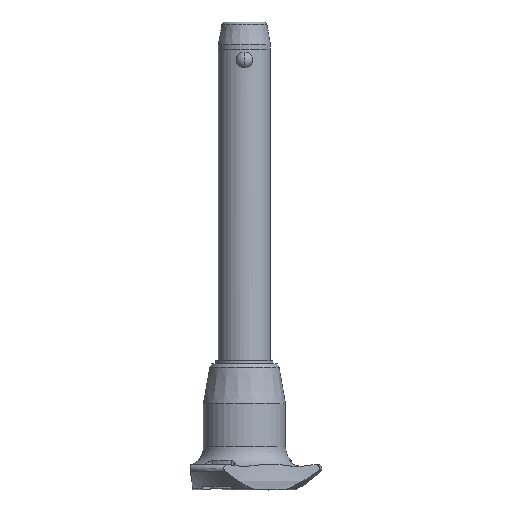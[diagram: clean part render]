
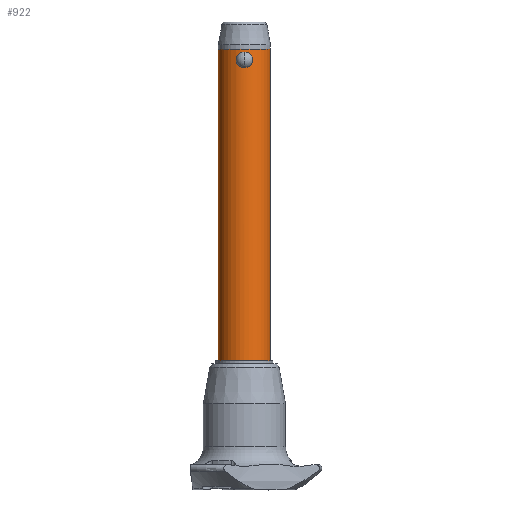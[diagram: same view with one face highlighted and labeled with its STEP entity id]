
A CAD part, front view. The second image highlights one B-rep face of the part: STEP entity #922.
In plain terms, the highlighted cylindrical face has radius 8 mm (diameter 16 mm), a partial arc.
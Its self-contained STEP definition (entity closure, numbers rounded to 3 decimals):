
#37 = CARTESIAN_POINT ( 'NONE',  ( -8., 0., 5.6 ) ) ;
#38 = VERTEX_POINT ( 'NONE', #2809 ) ;
#63 = DIRECTION ( 'NONE',  ( 0., 0., 1. ) ) ;
#154 = CARTESIAN_POINT ( 'NONE',  ( -2.547, -7.584, 2.229 ) ) ;
#170 = EDGE_CURVE ( 'NONE', #38, #1881, #373, .T. ) ;
#180 = CARTESIAN_POINT ( 'NONE',  ( -2.546, -7.584, 2.553 ) ) ;
#205 = CARTESIAN_POINT ( 'NONE',  ( 1.529, -7.854, 0.463 ) ) ;
#219 = CARTESIAN_POINT ( 'NONE',  ( 2.275, -7.67, 1.291 ) ) ;
#260 = EDGE_CURVE ( 'NONE', #2064, #684, #381, .T. ) ;
#287 = CARTESIAN_POINT ( 'NONE',  ( 0., 0., -90. ) ) ;
#331 = VECTOR ( 'NONE', #829, 1000. ) ;
#373 = LINE ( 'NONE', #1288, #331 ) ;
#381 = B_SPLINE_CURVE_WITH_KNOTS ( 'NONE', 3,
 ( #2173, #2449, #841, #2231, #2640, #1316, #2215, #2655, #1107, #1765, #2007, #882, #620, #648, #1301, #1495, #180, #154, #634, #1054, #1950, #2624, #604, #1508, #788, #434, #1685, #635, #2899, #550 ),
 .UNSPECIFIED., .F., .F.,
 ( 4, 2, 2, 2, 2, 2, 2, 2, 2, 2, 2, 2, 2, 2, 4 ),
 ( 0., 0., 0.001, 0.001, 0.002, 0.002, 0.003, 0.003, 0.004, 0.004, 0.005, 0.006, 0.006, 0.007, 0.008 ),
 .UNSPECIFIED. ) ;
#402 = CARTESIAN_POINT ( 'NONE',  ( 8., 0., -90. ) ) ;
#425 = AXIS2_PLACEMENT_3D ( 'NONE', #287, #63, #520 ) ;
#434 = CARTESIAN_POINT ( 'NONE',  ( -1.254, -7.902, 0.297 ) ) ;
#440 = CARTESIAN_POINT ( 'NONE',  ( 2.016, -7.746, 3.891 ) ) ;
#448 = ORIENTED_EDGE ( 'NONE', *, *, #2675, .F. ) ;
#452 = CARTESIAN_POINT ( 'NONE',  ( 0.804, -7.961, 4.661 ) ) ;
#520 = DIRECTION ( 'NONE',  ( 1., 0., 0. ) ) ;
#550 = CARTESIAN_POINT ( 'NONE',  ( 0., -8., 0. ) ) ;
#604 = CARTESIAN_POINT ( 'NONE',  ( -2.016, -7.746, 0.883 ) ) ;
#620 = CARTESIAN_POINT ( 'NONE',  ( -2.276, -7.67, 3.482 ) ) ;
#632 = DIRECTION ( 'NONE',  ( 0., 0., 1. ) ) ;
#634 = CARTESIAN_POINT ( 'NONE',  ( -2.529, -7.59, 2.064 ) ) ;
#635 = CARTESIAN_POINT ( 'NONE',  ( -0.652, -7.979, 0.058 ) ) ;
#641 = DIRECTION ( 'NONE',  ( 0., 0., -1. ) ) ;
#648 = CARTESIAN_POINT ( 'NONE',  ( -2.408, -7.629, 3.189 ) ) ;
#673 = CARTESIAN_POINT ( 'NONE',  ( 2.461, -7.612, 3.027 ) ) ;
#684 = VERTEX_POINT ( 'NONE', #2044 ) ;
#765 = CARTESIAN_POINT ( 'NONE',  ( 8., 0., -90. ) ) ;
#788 = CARTESIAN_POINT ( 'NONE',  ( -1.53, -7.854, 0.464 ) ) ;
#793 = ORIENTED_EDGE ( 'NONE', *, *, #2115, .F. ) ;
#807 = EDGE_LOOP ( 'NONE', ( #2237, #793 ) ) ;
#829 = DIRECTION ( 'NONE',  ( 0., 0., 1. ) ) ;
#836 = CARTESIAN_POINT ( 'NONE',  ( 2.41, -7.629, 3.184 ) ) ;
#841 = CARTESIAN_POINT ( 'NONE',  ( -0.326, -7.995, 4.761 ) ) ;
#864 = CARTESIAN_POINT ( 'NONE',  ( 0.645, -7.976, 4.704 ) ) ;
#877 = CARTESIAN_POINT ( 'NONE',  ( 1.108, -7.924, 4.548 ) ) ;
#882 = CARTESIAN_POINT ( 'NONE',  ( -2.193, -7.694, 3.623 ) ) ;
#893 = CARTESIAN_POINT ( 'NONE',  ( 2.004, -7.746, 0.894 ) ) ;
#922 = ADVANCED_FACE ( 'NONE', ( #1848, #2798 ), #1894, .T. ) ;
#1031 = EDGE_LOOP ( 'NONE', ( #2328, #448, #1311, #1423 ) ) ;
#1054 = CARTESIAN_POINT ( 'NONE',  ( -2.461, -7.612, 1.746 ) ) ;
#1075 = CARTESIAN_POINT ( 'NONE',  ( 2.211, -7.69, 3.626 ) ) ;
#1102 = CARTESIAN_POINT ( 'NONE',  ( 2.194, -7.694, 1.153 ) ) ;
#1107 = CARTESIAN_POINT ( 'NONE',  ( -1.658, -7.827, 4.216 ) ) ;
#1115 = CARTESIAN_POINT ( 'NONE',  ( 0.324, -8., 0. ) ) ;
#1122 = VERTEX_POINT ( 'NONE', #2901 ) ;
#1183 = CIRCLE ( 'NONE', #1940, 8. ) ;
#1288 = CARTESIAN_POINT ( 'NONE',  ( -8., 0., -90. ) ) ;
#1301 = CARTESIAN_POINT ( 'NONE',  ( -2.459, -7.613, 3.036 ) ) ;
#1310 = CARTESIAN_POINT ( 'NONE',  ( 1.252, -7.903, 0.296 ) ) ;
#1311 = ORIENTED_EDGE ( 'NONE', *, *, #1643, .T. ) ;
#1316 = CARTESIAN_POINT ( 'NONE',  ( -1.107, -7.924, 4.548 ) ) ;
#1336 = CARTESIAN_POINT ( 'NONE',  ( 0.326, -7.995, 4.761 ) ) ;
#1399 = B_SPLINE_CURVE_WITH_KNOTS ( 'NONE', 3,
 ( #2863, #1115, #2876, #2014, #1310, #205, #2001, #1544, #893, #1102, #219, #2919, #1558, #2236, #2693, #1572, #1774, #673, #836, #1075, #440, #2207, #2471, #2677, #877, #452, #864, #1336, #1971, #1730 ),
 .UNSPECIFIED., .F., .F.,
 ( 4, 2, 2, 2, 2, 2, 2, 2, 2, 2, 2, 2, 2, 2, 4 ),
 ( 0.008, 0.009, 0.009, 0.01, 0.01, 0.011, 0.011, 0.012, 0.012, 0.013, 0.014, 0.014, 0.015, 0.015, 0.016 ),
 .UNSPECIFIED. ) ;
#1416 = CIRCLE ( 'NONE', #2455, 8. ) ;
#1423 = ORIENTED_EDGE ( 'NONE', *, *, #2011, .F. ) ;
#1441 = CARTESIAN_POINT ( 'NONE',  ( 0., -8., 4.775 ) ) ;
#1495 = CARTESIAN_POINT ( 'NONE',  ( -2.529, -7.59, 2.716 ) ) ;
#1508 = CARTESIAN_POINT ( 'NONE',  ( -1.659, -7.827, 0.559 ) ) ;
#1544 = CARTESIAN_POINT ( 'NONE',  ( 1.894, -7.773, 0.773 ) ) ;
#1558 = CARTESIAN_POINT ( 'NONE',  ( 2.46, -7.613, 1.742 ) ) ;
#1572 = CARTESIAN_POINT ( 'NONE',  ( 2.547, -7.584, 2.549 ) ) ;
#1643 = EDGE_CURVE ( 'NONE', #2055, #1122, #1974, .T. ) ;
#1685 = CARTESIAN_POINT ( 'NONE',  ( -1.106, -7.925, 0.226 ) ) ;
#1730 = CARTESIAN_POINT ( 'NONE',  ( 0., -8., 4.775 ) ) ;
#1765 = CARTESIAN_POINT ( 'NONE',  ( -1.896, -7.773, 4.001 ) ) ;
#1773 = CARTESIAN_POINT ( 'NONE',  ( 0., 0., -90. ) ) ;
#1774 = CARTESIAN_POINT ( 'NONE',  ( 2.529, -7.59, 2.71 ) ) ;
#1848 = FACE_OUTER_BOUND ( 'NONE', #1031, .T. ) ;
#1881 = VERTEX_POINT ( 'NONE', #37 ) ;
#1894 = CYLINDRICAL_SURFACE ( 'NONE', #425, 8. ) ;
#1940 = AXIS2_PLACEMENT_3D ( 'NONE', #1773, #641, #2874 ) ;
#1950 = CARTESIAN_POINT ( 'NONE',  ( -2.411, -7.628, 1.592 ) ) ;
#1971 = CARTESIAN_POINT ( 'NONE',  ( 0.164, -8., 4.775 ) ) ;
#1974 = LINE ( 'NONE', #402, #2027 ) ;
#2001 = CARTESIAN_POINT ( 'NONE',  ( 1.657, -7.827, 0.558 ) ) ;
#2007 = CARTESIAN_POINT ( 'NONE',  ( -2.003, -7.746, 3.882 ) ) ;
#2011 = EDGE_CURVE ( 'NONE', #1881, #1122, #1416, .T. ) ;
#2014 = CARTESIAN_POINT ( 'NONE',  ( 1.105, -7.925, 0.226 ) ) ;
#2027 = VECTOR ( 'NONE', #632, 1000. ) ;
#2044 = CARTESIAN_POINT ( 'NONE',  ( 0., -8., 0. ) ) ;
#2055 = VERTEX_POINT ( 'NONE', #765 ) ;
#2064 = VERTEX_POINT ( 'NONE', #1441 ) ;
#2115 = EDGE_CURVE ( 'NONE', #684, #2064, #1399, .T. ) ;
#2173 = CARTESIAN_POINT ( 'NONE',  ( 0., -8., 4.775 ) ) ;
#2207 = CARTESIAN_POINT ( 'NONE',  ( 1.66, -7.827, 4.215 ) ) ;
#2215 = CARTESIAN_POINT ( 'NONE',  ( -1.252, -7.903, 4.479 ) ) ;
#2231 = CARTESIAN_POINT ( 'NONE',  ( -0.645, -7.976, 4.704 ) ) ;
#2236 = CARTESIAN_POINT ( 'NONE',  ( 2.528, -7.59, 2.058 ) ) ;
#2237 = ORIENTED_EDGE ( 'NONE', *, *, #260, .F. ) ;
#2328 = ORIENTED_EDGE ( 'NONE', *, *, #170, .F. ) ;
#2403 = DIRECTION ( 'NONE',  ( 1., 0., 0. ) ) ;
#2449 = CARTESIAN_POINT ( 'NONE',  ( -0.164, -8., 4.775 ) ) ;
#2455 = AXIS2_PLACEMENT_3D ( 'NONE', #2818, #2618, #2403 ) ;
#2471 = CARTESIAN_POINT ( 'NONE',  ( 1.529, -7.854, 4.312 ) ) ;
#2618 = DIRECTION ( 'NONE',  ( 0., 0., 1. ) ) ;
#2624 = CARTESIAN_POINT ( 'NONE',  ( -2.211, -7.69, 1.148 ) ) ;
#2640 = CARTESIAN_POINT ( 'NONE',  ( -0.803, -7.961, 4.661 ) ) ;
#2655 = CARTESIAN_POINT ( 'NONE',  ( -1.527, -7.854, 4.313 ) ) ;
#2675 = EDGE_CURVE ( 'NONE', #2055, #38, #1183, .T. ) ;
#2677 = CARTESIAN_POINT ( 'NONE',  ( 1.253, -7.903, 4.478 ) ) ;
#2693 = CARTESIAN_POINT ( 'NONE',  ( 2.546, -7.584, 2.22 ) ) ;
#2798 = FACE_BOUND ( 'NONE', #807, .T. ) ;
#2809 = CARTESIAN_POINT ( 'NONE',  ( -8., 0., -90. ) ) ;
#2818 = CARTESIAN_POINT ( 'NONE',  ( 0., 0., 5.6 ) ) ;
#2863 = CARTESIAN_POINT ( 'NONE',  ( 0., -8., 0. ) ) ;
#2874 = DIRECTION ( 'NONE',  ( 1., 0., 0. ) ) ;
#2876 = CARTESIAN_POINT ( 'NONE',  ( 0.652, -7.979, 0.058 ) ) ;
#2899 = CARTESIAN_POINT ( 'NONE',  ( -0.324, -8., 0. ) ) ;
#2901 = CARTESIAN_POINT ( 'NONE',  ( 8., 0., 5.6 ) ) ;
#2919 = CARTESIAN_POINT ( 'NONE',  ( 2.408, -7.629, 1.586 ) ) ;
